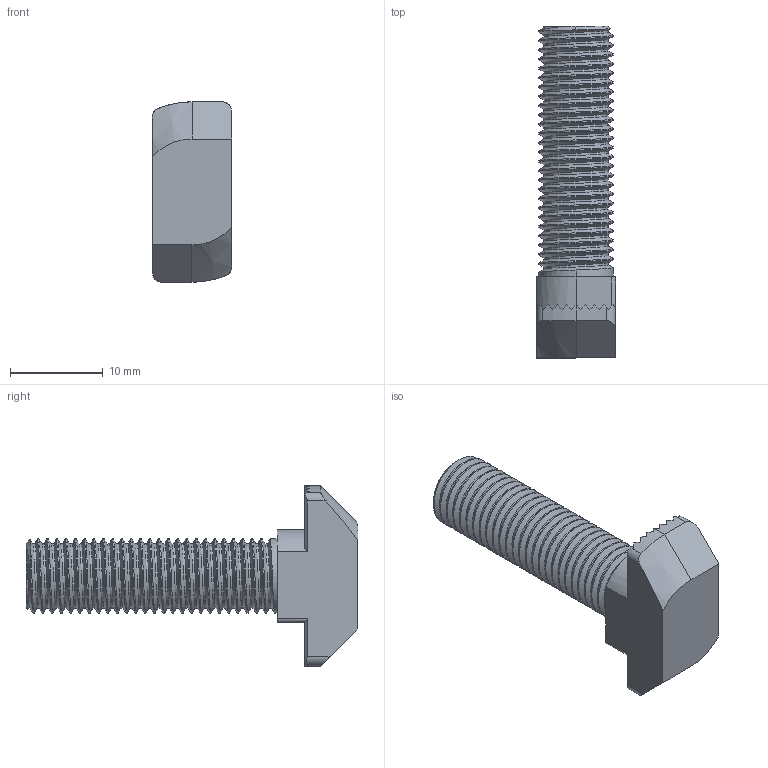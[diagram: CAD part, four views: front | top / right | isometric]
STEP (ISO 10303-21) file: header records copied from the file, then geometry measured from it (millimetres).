
FILE_DESCRIPTION (( 'STEP AP203' ), '1' );
FILE_NAME ('999406_Hammerschraube M8x30.step', '2022-10-13T06:07:20', ( '' ), ( '' ), 'SwSTEP 2.0', 'SolidWorks 2021', '' );
FILE_SCHEMA (( 'CONFIG_CONTROL_DESIGN' ));
Length unit declared in the file: millimetre
Products named in the file (1): 999406_Hammerschraube M8x30
Bounding box: 8.5 x 35.7 x 19.4 mm (x, y, z)
Volume: 2166.5 mm3; surface area: 1688.9 mm2
Topology: 1 solids, 1 shells, 120 faces, 343 edges, 226 vertices
Faces by surface type: cylinder 64, plane 48, cone 5, bspline 3
Entity records: 7955 total; most frequent: CARTESIAN_POINT 5236, ORIENTED_EDGE 686, DIRECTION 425, EDGE_CURVE 343, VERTEX_POINT 226, VECTOR 159, LINE 159, AXIS2_PLACEMENT_3D 133
